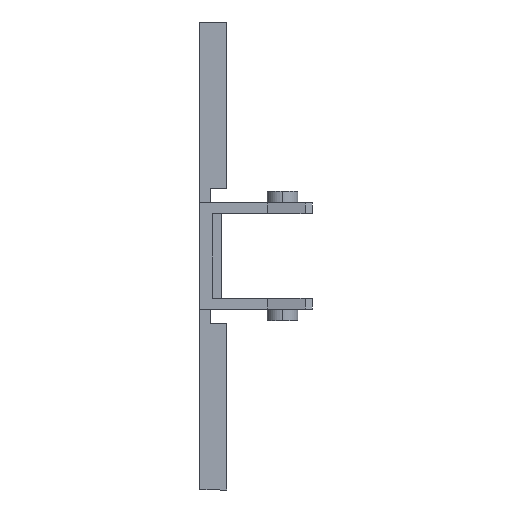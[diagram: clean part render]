
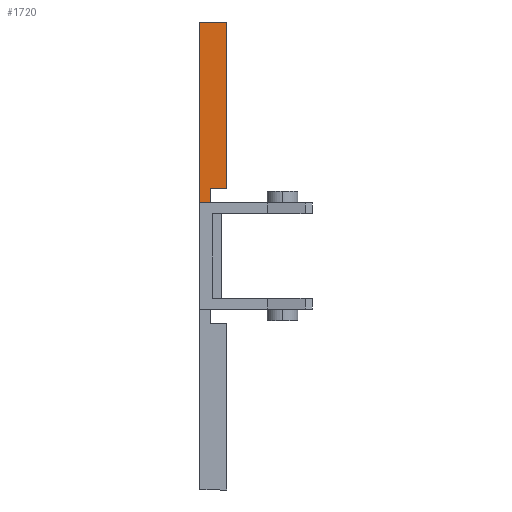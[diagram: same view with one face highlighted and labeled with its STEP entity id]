
A CAD part, front view. The second image highlights one B-rep face of the part: STEP entity #1720.
In plain terms, the highlighted planar face has unit normal (0, -1, 0).
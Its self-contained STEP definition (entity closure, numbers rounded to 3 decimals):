
#9 = CARTESIAN_POINT ( 'NONE',  ( 3., -9., 26. ) ) ;
#58 = DIRECTION ( 'NONE',  ( 0., 0., -1. ) ) ;
#86 = EDGE_CURVE ( 'NONE', #1557, #1556, #1915, .T. ) ;
#137 = EDGE_CURVE ( 'NONE', #1558, #1559, #1995, .T. ) ;
#151 = EDGE_CURVE ( 'NONE', #1550, #1555, #2019, .T. ) ;
#161 = EDGE_CURVE ( 'NONE', #1559, #1557, #2047, .T. ) ;
#181 = EDGE_CURVE ( 'NONE', #1555, #1558, #2088, .T. ) ;
#254 = EDGE_CURVE ( 'NONE', #1556, #1550, #2208, .T. ) ;
#495 = ORIENTED_EDGE ( 'NONE', *, *, #161, .F. ) ;
#496 = ORIENTED_EDGE ( 'NONE', *, *, #137, .F. ) ;
#497 = ORIENTED_EDGE ( 'NONE', *, *, #181, .F. ) ;
#504 = ORIENTED_EDGE ( 'NONE', *, *, #151, .F. ) ;
#505 = ORIENTED_EDGE ( 'NONE', *, *, #254, .F. ) ;
#506 = ORIENTED_EDGE ( 'NONE', *, *, #86, .F. ) ;
#790 = EDGE_LOOP ( 'NONE', ( #504, #505, #506, #495, #496, #497 ) ) ;
#842 = DIRECTION ( 'NONE',  ( -1., 0., 0. ) ) ;
#847 = CARTESIAN_POINT ( 'NONE',  ( 3., -9., 7.5 ) ) ;
#862 = DIRECTION ( 'NONE',  ( 0., 0., 1. ) ) ;
#865 = CARTESIAN_POINT ( 'NONE',  ( 0., -9., 5. ) ) ;
#940 = DIRECTION ( 'NONE',  ( 1., 0., 0. ) ) ;
#944 = CARTESIAN_POINT ( 'NONE',  ( 0., -9., 26. ) ) ;
#1005 = DIRECTION ( 'NONE',  ( -1., 0., 0. ) ) ;
#1006 = CARTESIAN_POINT ( 'NONE',  ( 0., -9., 5.9 ) ) ;
#1163 = CARTESIAN_POINT ( 'NONE',  ( 3., -9., 26. ) ) ;
#1164 = CARTESIAN_POINT ( 'NONE',  ( 1.2, -9., 7.5 ) ) ;
#1165 = CARTESIAN_POINT ( 'NONE',  ( 1.2, -9., 5.9 ) ) ;
#1166 = CARTESIAN_POINT ( 'NONE',  ( 0., -9., 26. ) ) ;
#1171 = CARTESIAN_POINT ( 'NONE',  ( 0., -9., 5.9 ) ) ;
#1335 = CARTESIAN_POINT ( 'NONE',  ( 3., -9., 7.5 ) ) ;
#1550 = VERTEX_POINT ( 'NONE', #1171 ) ;
#1555 = VERTEX_POINT ( 'NONE', #1166 ) ;
#1556 = VERTEX_POINT ( 'NONE', #1165 ) ;
#1557 = VERTEX_POINT ( 'NONE', #1164 ) ;
#1558 = VERTEX_POINT ( 'NONE', #1163 ) ;
#1559 = VERTEX_POINT ( 'NONE', #1335 ) ;
#1635 = DIRECTION ( 'NONE',  ( 0., 0., -1. ) ) ;
#1645 = CARTESIAN_POINT ( 'NONE',  ( 1.2, -9., 7.5 ) ) ;
#1720 = ADVANCED_FACE ( 'NONE', ( #1743 ), #2557, .F. ) ;
#1743 = FACE_OUTER_BOUND ( 'NONE', #790, .T. ) ;
#1915 = LINE ( 'NONE', #1645, #1923 ) ;
#1923 = VECTOR ( 'NONE', #1635, 1000. ) ;
#1995 = LINE ( 'NONE', #9, #2002 ) ;
#2002 = VECTOR ( 'NONE', #58, 1000. ) ;
#2019 = LINE ( 'NONE', #865, #2034 ) ;
#2034 = VECTOR ( 'NONE', #862, 1000. ) ;
#2047 = LINE ( 'NONE', #847, #2054 ) ;
#2054 = VECTOR ( 'NONE', #842, 1000. ) ;
#2088 = LINE ( 'NONE', #944, #2089 ) ;
#2089 = VECTOR ( 'NONE', #940, 1000. ) ;
#2208 = LINE ( 'NONE', #1006, #2209 ) ;
#2209 = VECTOR ( 'NONE', #1005, 1000. ) ;
#2547 = DIRECTION ( 'NONE',  ( 0., 0., 1. ) ) ;
#2548 = DIRECTION ( 'NONE',  ( 0., 1., 0. ) ) ;
#2554 = CARTESIAN_POINT ( 'NONE',  ( 0., -9., 5. ) ) ;
#2557 = PLANE ( 'NONE',  #2725 ) ;
#2725 = AXIS2_PLACEMENT_3D ( 'NONE', #2554, #2548, #2547 ) ;
